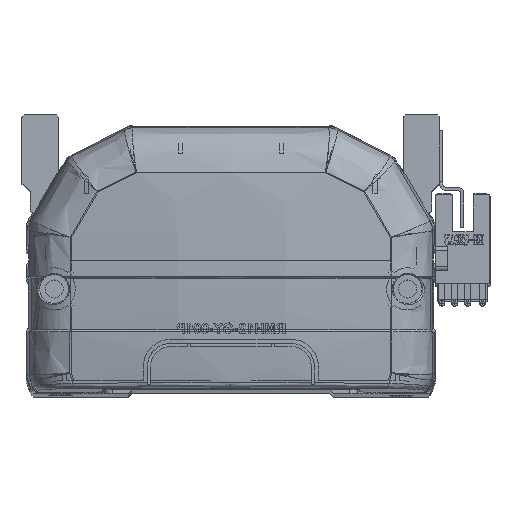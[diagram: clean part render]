
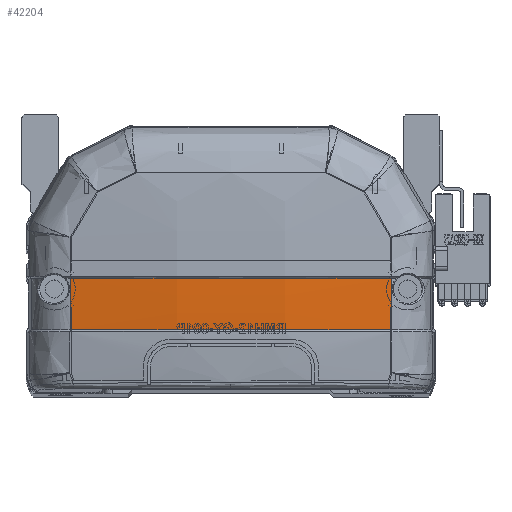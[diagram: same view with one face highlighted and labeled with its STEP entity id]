
A CAD part, top view. The second image highlights one B-rep face of the part: STEP entity #42204.
In plain terms, the highlighted free-form (B-spline) face has degree [3, 3] with [4, 4] control points.
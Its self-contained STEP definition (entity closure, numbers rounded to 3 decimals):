
#541 = CARTESIAN_POINT ( 'NONE',  ( 39.963, 28.706, -6.372 ) ) ;
#2498 = CARTESIAN_POINT ( 'NONE',  ( 13.598, 19.918, -10.302 ) ) ;
#6900 = CARTESIAN_POINT ( 'NONE',  ( 13.598, 24.342, -10.47 ) ) ;
#7104 = EDGE_CURVE ( 'NONE', #27038, #47061, #46874, .T. ) ;
#7365 = FACE_OUTER_BOUND ( 'NONE', #33483, .T. ) ;
#7939 = CARTESIAN_POINT ( 'NONE',  ( 39.985, 15.83, -5.879 ) ) ;
#8655 = CARTESIAN_POINT ( 'NONE',  ( -33.365, 15.83, -6.848 ) ) ;
#8855 = CARTESIAN_POINT ( 'NONE',  ( -39.966, 24.412, -6.306 ) ) ;
#9985 = EDGE_CURVE ( 'NONE', #32742, #53329, #44332, .T. ) ;
#11382 = CARTESIAN_POINT ( 'NONE',  ( 13.598, 28.769, -10.535 ) ) ;
#11569 = CARTESIAN_POINT ( 'NONE',  ( -13.598, 19.918, -10.302 ) ) ;
#13187 = CARTESIAN_POINT ( 'NONE',  ( -39.963, 28.706, -6.372 ) ) ;
#13196 =( BOUNDED_SURFACE ( )  B_SPLINE_SURFACE ( 3, 3, ( 
 ( #42221, #20165, #51200, #24981 ),
 ( #55596, #2498, #6900, #11382 ),
 ( #42410, #11569, #20357, #33877 ),
 ( #51382, #24793, #55804, #29221 ) ),
 .UNSPECIFIED., .F., .F., .F. ) 
 B_SPLINE_SURFACE_WITH_KNOTS ( ( 4, 4 ),
 ( 4, 4 ),
 ( 0., 1. ),
 ( 0., 1. ),
 .UNSPECIFIED. ) 
 GEOMETRIC_REPRESENTATION_ITEM ( )  RATIONAL_B_SPLINE_SURFACE ( (
 ( 1., 1., 1., 1.),
 ( 0.992, 0.992, 0.992, 0.992),
 ( 0.992, 0.992, 0.992, 0.992),
 ( 1., 1., 1., 1.) ) ) 
 REPRESENTATION_ITEM ( '' )  SURFACE ( )  );
#14255 = EDGE_CURVE ( 'NONE', #32742, #47061, #43346, .T. ) ;
#16202 = CARTESIAN_POINT ( 'NONE',  ( 39.963, 28.706, -6.372 ) ) ;
#17440 = CARTESIAN_POINT ( 'NONE',  ( 39.985, 15.83, -5.879 ) ) ;
#17651 = CARTESIAN_POINT ( 'NONE',  ( -39.985, 15.83, -5.879 ) ) ;
#20165 = CARTESIAN_POINT ( 'NONE',  ( 40.461, 20.111, -6.066 ) ) ;
#20357 = CARTESIAN_POINT ( 'NONE',  ( -13.598, 24.342, -10.47 ) ) ;
#21260 = CARTESIAN_POINT ( 'NONE',  ( -39.985, 15.83, -5.879 ) ) ;
#21530 = CARTESIAN_POINT ( 'NONE',  ( 26.761, 15.83, -7.945 ) ) ;
#22125 = CARTESIAN_POINT ( 'NONE',  ( -39.973, 20.118, -6.142 ) ) ;
#22611 = CARTESIAN_POINT ( 'NONE',  ( 26.749, 28.706, -8.432 ) ) ;
#22869 = CARTESIAN_POINT ( 'NONE',  ( 39.963, 28.706, -6.372 ) ) ;
#23450 = CARTESIAN_POINT ( 'NONE',  ( 39.966, 24.413, -6.306 ) ) ;
#24793 = CARTESIAN_POINT ( 'NONE',  ( -40.461, 20.111, -6.066 ) ) ;
#24981 = CARTESIAN_POINT ( 'NONE',  ( 40.461, 28.832, -6.296 ) ) ;
#25567 = CARTESIAN_POINT ( 'NONE',  ( 13.38, 15.83, -8.984 ) ) ;
#25668 = EDGE_CURVE ( 'NONE', #27038, #53329, #40334, .T. ) ;
#25766 = CARTESIAN_POINT ( 'NONE',  ( -26.721, 15.83, -7.624 ) ) ;
#27038 = VERTEX_POINT ( 'NONE', #51538 ) ;
#29221 = CARTESIAN_POINT ( 'NONE',  ( -40.461, 28.832, -6.296 ) ) ;
#30004 = CARTESIAN_POINT ( 'NONE',  ( -36.679, 15.83, -6.395 ) ) ;
#32742 = VERTEX_POINT ( 'NONE', #7939 ) ;
#32888 = ORIENTED_EDGE ( 'NONE', *, *, #9985, .T. ) ;
#33483 = EDGE_LOOP ( 'NONE', ( #32888, #37751, #56255, #56989 ) ) ;
#33877 = CARTESIAN_POINT ( 'NONE',  ( -13.598, 28.769, -10.535 ) ) ;
#34855 = CARTESIAN_POINT ( 'NONE',  ( -6.692, 15.83, -8.984 ) ) ;
#36534 = CARTESIAN_POINT ( 'NONE',  ( -39.963, 28.706, -6.372 ) ) ;
#37751 = ORIENTED_EDGE ( 'NONE', *, *, #25668, .F. ) ;
#40334 = B_SPLINE_CURVE_WITH_KNOTS ( 'NONE', 3,
 ( #36534, #40414, #40985, #49181, #22611, #541 ),
 .UNSPECIFIED., .F., .F.,
 ( 4, 2, 4 ),
 ( 0., 0.5, 1. ),
 .UNSPECIFIED. ) ;
#40414 = CARTESIAN_POINT ( 'NONE',  ( -26.748, 28.706, -8.432 ) ) ;
#40985 = CARTESIAN_POINT ( 'NONE',  ( -13.373, 28.707, -9.468 ) ) ;
#42204 = ADVANCED_FACE ( 'NONE', ( #7365 ), #13196, .F. ) ;
#42221 = CARTESIAN_POINT ( 'NONE',  ( 40.461, 15.757, -5.8 ) ) ;
#42410 = CARTESIAN_POINT ( 'NONE',  ( -13.598, 15.499, -10.032 ) ) ;
#43346 = B_SPLINE_CURVE_WITH_KNOTS ( 'NONE', 3,
 ( #17440, #21530, #25567, #34855, #43400, #44175, #25766, #8655, #30004, #56764 ),
 .UNSPECIFIED., .F., .F.,
 ( 4, 2, 2, 2, 4 ),
 ( 0., 0.04, 0.06, 0.07, 0.08 ),
 .UNSPECIFIED. ) ;
#43400 = CARTESIAN_POINT ( 'NONE',  ( -13.384, 15.83, -8.724 ) ) ;
#44175 = CARTESIAN_POINT ( 'NONE',  ( -23.389, 15.83, -7.947 ) ) ;
#44332 = B_SPLINE_CURVE_WITH_KNOTS ( 'NONE', 3,
 ( #49456, #45520, #23450, #22869 ),
 .UNSPECIFIED., .F., .F.,
 ( 4, 4 ),
 ( 0., 1. ),
 .UNSPECIFIED. ) ;
#45520 = CARTESIAN_POINT ( 'NONE',  ( 39.973, 20.12, -6.142 ) ) ;
#46874 = B_SPLINE_CURVE_WITH_KNOTS ( 'NONE', 3,
 ( #13187, #8855, #22125, #17651 ),
 .UNSPECIFIED., .F., .F.,
 ( 4, 4 ),
 ( 0., 1. ),
 .UNSPECIFIED. ) ;
#47061 = VERTEX_POINT ( 'NONE', #21260 ) ;
#49181 = CARTESIAN_POINT ( 'NONE',  ( 13.375, 28.707, -9.468 ) ) ;
#49456 = CARTESIAN_POINT ( 'NONE',  ( 39.985, 15.83, -5.879 ) ) ;
#51200 = CARTESIAN_POINT ( 'NONE',  ( 40.461, 24.47, -6.231 ) ) ;
#51382 = CARTESIAN_POINT ( 'NONE',  ( -40.461, 15.757, -5.8 ) ) ;
#51538 = CARTESIAN_POINT ( 'NONE',  ( -39.963, 28.706, -6.372 ) ) ;
#53329 = VERTEX_POINT ( 'NONE', #16202 ) ;
#55596 = CARTESIAN_POINT ( 'NONE',  ( 13.598, 15.499, -10.032 ) ) ;
#55804 = CARTESIAN_POINT ( 'NONE',  ( -40.461, 24.47, -6.231 ) ) ;
#56255 = ORIENTED_EDGE ( 'NONE', *, *, #7104, .T. ) ;
#56764 = CARTESIAN_POINT ( 'NONE',  ( -39.985, 15.83, -5.879 ) ) ;
#56989 = ORIENTED_EDGE ( 'NONE', *, *, #14255, .F. ) ;
